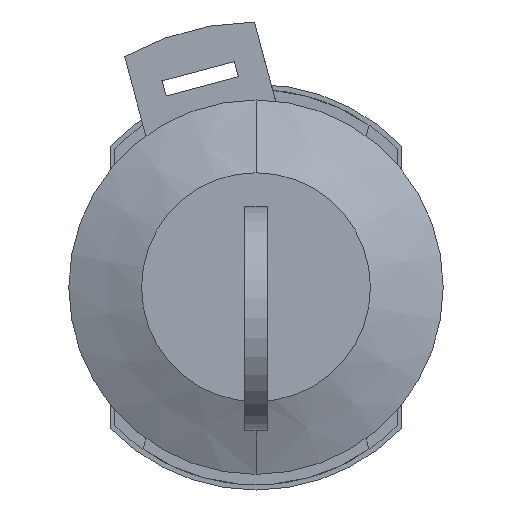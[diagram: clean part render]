
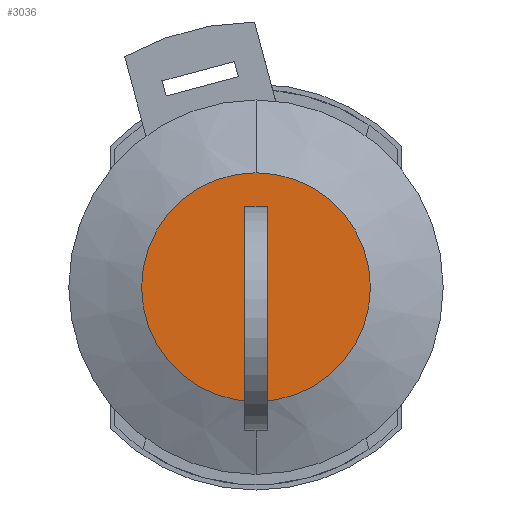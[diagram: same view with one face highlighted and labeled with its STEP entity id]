
A CAD part, left-side view. The second image highlights one B-rep face of the part: STEP entity #3036.
In plain terms, the highlighted planar face has unit normal (-1, 0, 0).
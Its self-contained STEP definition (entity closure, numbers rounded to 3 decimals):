
#11 = CARTESIAN_POINT ( 'NONE',  ( -16., 0., 11. ) ) ;
#451 = CIRCLE ( 'NONE', #452, 11. ) ;
#452 = AXIS2_PLACEMENT_3D ( 'NONE', #453, #454, #455 ) ;
#453 = CARTESIAN_POINT ( 'NONE',  ( -16., 0., 0. ) ) ;
#454 = DIRECTION ( 'NONE',  ( 1., 0., 0. ) ) ;
#455 = DIRECTION ( 'NONE',  ( 0., 0., -1. ) ) ;
#568 = CIRCLE ( 'NONE', #569, 11. ) ;
#569 = AXIS2_PLACEMENT_3D ( 'NONE', #570, #571, #572 ) ;
#570 = CARTESIAN_POINT ( 'NONE',  ( -16., 0., 0. ) ) ;
#571 = DIRECTION ( 'NONE',  ( 1., 0., 0. ) ) ;
#572 = DIRECTION ( 'NONE',  ( 0., 0., -1. ) ) ;
#1533 = CARTESIAN_POINT ( 'NONE',  ( -16., -1.1, -7. ) ) ;
#2079 = CARTESIAN_POINT ( 'NONE',  ( -16., 1.1, -7. ) ) ;
#2410 = LINE ( 'NONE', #2411, #2412 ) ;
#2411 = CARTESIAN_POINT ( 'NONE',  ( -16., 5.5, -7. ) ) ;
#2412 = VECTOR ( 'NONE', #2413, 1000. ) ;
#2413 = DIRECTION ( 'NONE',  ( 0., 1., 0. ) ) ;
#3036 = ADVANCED_FACE ( 'NONE', ( #9786, #9787 ), #9788, .T. ) ;
#3241 = LINE ( 'NONE', #3242, #3243 ) ;
#3242 = CARTESIAN_POINT ( 'NONE',  ( -16., -1.1, 0. ) ) ;
#3243 = VECTOR ( 'NONE', #3244, 1000. ) ;
#3244 = DIRECTION ( 'NONE',  ( 0., 0., -1. ) ) ;
#3340 = EDGE_LOOP ( 'NONE', ( #3853, #4396, #4937, #11881 ) ) ;
#3356 = CARTESIAN_POINT ( 'NONE',  ( -16., -1.1, 2. ) ) ;
#3853 = ORIENTED_EDGE ( 'NONE', *, *, #5343, .T. ) ;
#4396 = ORIENTED_EDGE ( 'NONE', *, *, #12879, .T. ) ;
#4937 = ORIENTED_EDGE ( 'NONE', *, *, #9120, .T. ) ;
#5026 = LINE ( 'NONE', #5027, #5028 ) ;
#5027 = CARTESIAN_POINT ( 'NONE',  ( -16., 5.5, 2. ) ) ;
#5028 = VECTOR ( 'NONE', #5029, 1000. ) ;
#5029 = DIRECTION ( 'NONE',  ( 0., -1., 0. ) ) ;
#5091 = CARTESIAN_POINT ( 'NONE',  ( -16., 1.1, 2. ) ) ;
#5343 = EDGE_CURVE ( 'NONE', #7852, #12990, #11157, .T. ) ;
#6770 = VERTEX_POINT ( 'NONE', #13625 ) ;
#6831 = VERTEX_POINT ( 'NONE', #11 ) ;
#7127 = EDGE_CURVE ( 'NONE', #6770, #6831, #568, .T. ) ;
#7610 = VERTEX_POINT ( 'NONE', #1533 ) ;
#7852 = VERTEX_POINT ( 'NONE', #2079 ) ;
#8029 = EDGE_CURVE ( 'NONE', #7610, #7852, #2410, .T. ) ;
#9120 = EDGE_CURVE ( 'NONE', #9340, #7610, #3241, .T. ) ;
#9340 = VERTEX_POINT ( 'NONE', #3356 ) ;
#9786 = FACE_BOUND ( 'NONE', #3340, .T. ) ;
#9787 = FACE_OUTER_BOUND ( 'NONE', #12152, .T. ) ;
#9788 = PLANE ( 'NONE',  #9789 ) ;
#9789 = AXIS2_PLACEMENT_3D ( 'NONE', #9790, #9791, #9792 ) ;
#9790 = CARTESIAN_POINT ( 'NONE',  ( -16., 5.5, 0. ) ) ;
#9791 = DIRECTION ( 'NONE',  ( -1., 0., 0. ) ) ;
#9792 = DIRECTION ( 'NONE',  ( 0., 0., 1. ) ) ;
#11157 = LINE ( 'NONE', #11158, #11159 ) ;
#11158 = CARTESIAN_POINT ( 'NONE',  ( -16., 1.1, 0. ) ) ;
#11159 = VECTOR ( 'NONE', #11164, 1000. ) ;
#11164 = DIRECTION ( 'NONE',  ( 0., 0., 1. ) ) ;
#11881 = ORIENTED_EDGE ( 'NONE', *, *, #8029, .T. ) ;
#12152 = EDGE_LOOP ( 'NONE', ( #12663, #13233 ) ) ;
#12663 = ORIENTED_EDGE ( 'NONE', *, *, #7127, .F. ) ;
#12879 = EDGE_CURVE ( 'NONE', #12990, #9340, #5026, .T. ) ;
#12990 = VERTEX_POINT ( 'NONE', #5091 ) ;
#13233 = ORIENTED_EDGE ( 'NONE', *, *, #13590, .F. ) ;
#13590 = EDGE_CURVE ( 'NONE', #6831, #6770, #451, .T. ) ;
#13625 = CARTESIAN_POINT ( 'NONE',  ( -16., 0., -11. ) ) ;
